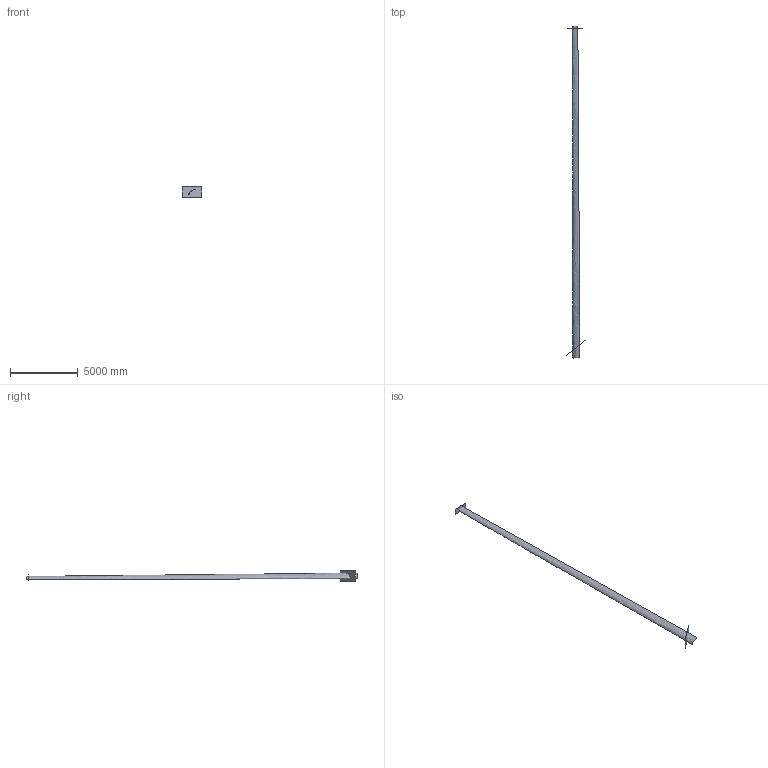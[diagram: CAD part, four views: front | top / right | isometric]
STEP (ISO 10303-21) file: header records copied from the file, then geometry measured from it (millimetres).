
FILE_DESCRIPTION((''),'2;1');
FILE_NAME('','2022-03-10T06:35:40',(''),(''),'','CADfix','');
FILE_SCHEMA(('AUTOMOTIVE_DESIGN { 1 0 10303 214 1 1 1 1 }'));
Length unit declared in the file: inch
Bounding box: 1472.69 x 24551.59 x 811.52 mm (x, y, z)
Surface area: 17431023.1 mm2 (no closed solid volume)
Topology: 0 solids, 0 shells, 3 faces, 12 edges, 12 vertices
Faces by surface type: bspline 3
Entity records: 21346 total; most frequent: CARTESIAN_POINT 21324, B_SPLINE_SURFACE_WITH_KNOTS 3, DIMENSIONAL_EXPONENTS 2, PLANE_ANGLE_MEASURE_WITH_UNIT 1, LENGTH_MEASURE_WITH_UNIT 1, UNCERTAINTY_MEASURE_WITH_UNIT 1, GEOMETRIC_SET 1, GEOMETRICALLY_BOUNDED_SURFACE_SHAPE_REPRESENTATION 1
